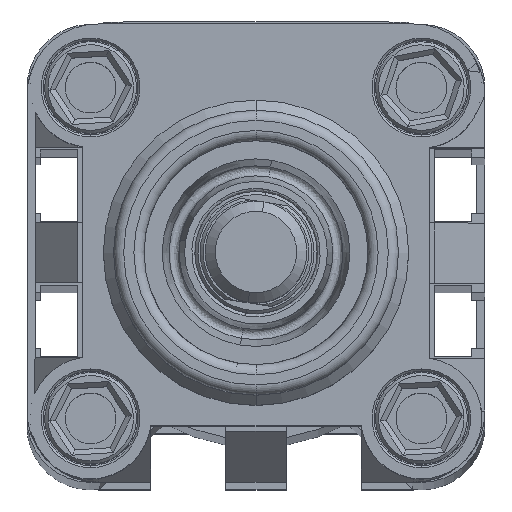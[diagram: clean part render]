
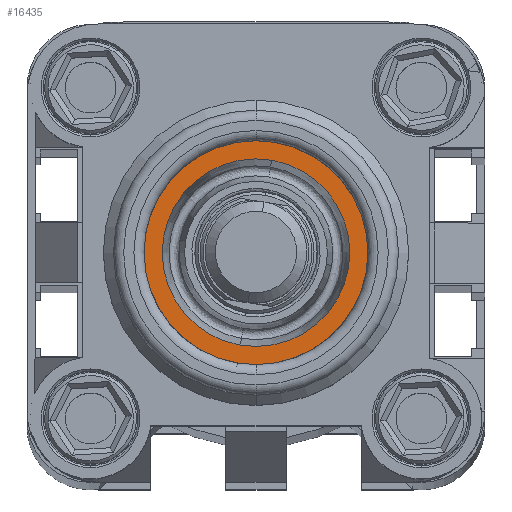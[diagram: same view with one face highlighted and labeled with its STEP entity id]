
A CAD part, top view. The second image highlights one B-rep face of the part: STEP entity #16435.
In plain terms, the highlighted planar face has unit normal (0, 0, 1) as drawn and (0, -1, 0) by its records, which use the part's own axes.
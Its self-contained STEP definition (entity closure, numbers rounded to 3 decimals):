
#705 = AXIS2_PLACEMENT_3D ( 'NONE', #16237, #9173, #10903 ) ;
#1622 = DIRECTION ( 'NONE',  ( 0., 1., 0. ) ) ;
#2420 = EDGE_LOOP ( 'NONE', ( #19342, #15966 ) ) ;
#3279 = DIRECTION ( 'NONE',  ( 0., 0., 1. ) ) ;
#3852 = ORIENTED_EDGE ( 'NONE', *, *, #9422, .F. ) ;
#3889 = CIRCLE ( 'NONE', #22813, 11. ) ;
#3952 = CARTESIAN_POINT ( 'NONE',  ( 0., -10.4, 0. ) ) ;
#4577 = EDGE_CURVE ( 'NONE', #4940, #23078, #13310, .T. ) ;
#4701 = VERTEX_POINT ( 'NONE', #20446 ) ;
#4940 = VERTEX_POINT ( 'NONE', #17203 ) ;
#4962 = DIRECTION ( 'NONE',  ( 0., 1., 0. ) ) ;
#5686 = CARTESIAN_POINT ( 'NONE',  ( -11., -10.4, 0. ) ) ;
#5709 = DIRECTION ( 'NONE',  ( 0., 0., -1. ) ) ;
#7388 = ORIENTED_EDGE ( 'NONE', *, *, #22540, .F. ) ;
#7731 = CARTESIAN_POINT ( 'NONE',  ( 0., -10.4, -11. ) ) ;
#8806 = FACE_OUTER_BOUND ( 'NONE', #20913, .T. ) ;
#8816 = CARTESIAN_POINT ( 'NONE',  ( 0., -10.4, 0. ) ) ;
#9173 = DIRECTION ( 'NONE',  ( 0., 1., 0. ) ) ;
#9422 = EDGE_CURVE ( 'NONE', #18476, #4701, #23315, .T. ) ;
#10903 = DIRECTION ( 'NONE',  ( 0., 0., -1. ) ) ;
#11333 = DIRECTION ( 'NONE',  ( 0., 1., 0. ) ) ;
#11885 = DIRECTION ( 'NONE',  ( 0., 0., 1. ) ) ;
#12753 = DIRECTION ( 'NONE',  ( 0., -1., 0. ) ) ;
#13310 = CIRCLE ( 'NONE', #705, 9.214 ) ;
#13700 = EDGE_CURVE ( 'NONE', #23078, #4940, #19390, .T. ) ;
#14539 = DIRECTION ( 'NONE',  ( 0., 0., -1. ) ) ;
#15425 = AXIS2_PLACEMENT_3D ( 'NONE', #5686, #12753, #14539 ) ;
#15836 = FACE_BOUND ( 'NONE', #2420, .T. ) ;
#15966 = ORIENTED_EDGE ( 'NONE', *, *, #13700, .T. ) ;
#16234 = PLANE ( 'NONE',  #15425 ) ;
#16237 = CARTESIAN_POINT ( 'NONE',  ( 0., -10.4, 0. ) ) ;
#16435 = ADVANCED_FACE ( 'NONE', ( #15836, #8806 ), #16234, .T. ) ;
#16578 = CARTESIAN_POINT ( 'NONE',  ( 0., -10.4, 9.214 ) ) ;
#17203 = CARTESIAN_POINT ( 'NONE',  ( 0., -10.4, -9.214 ) ) ;
#18476 = VERTEX_POINT ( 'NONE', #7731 ) ;
#19028 = CARTESIAN_POINT ( 'NONE',  ( 0., -10.4, 0. ) ) ;
#19185 = AXIS2_PLACEMENT_3D ( 'NONE', #8816, #1622, #3279 ) ;
#19342 = ORIENTED_EDGE ( 'NONE', *, *, #4577, .T. ) ;
#19390 = CIRCLE ( 'NONE', #21079, 9.214 ) ;
#20446 = CARTESIAN_POINT ( 'NONE',  ( 0., -10.4, 11. ) ) ;
#20913 = EDGE_LOOP ( 'NONE', ( #7388, #3852 ) ) ;
#21079 = AXIS2_PLACEMENT_3D ( 'NONE', #3952, #11333, #5709 ) ;
#22540 = EDGE_CURVE ( 'NONE', #4701, #18476, #3889, .T. ) ;
#22813 = AXIS2_PLACEMENT_3D ( 'NONE', #19028, #4962, #11885 ) ;
#23078 = VERTEX_POINT ( 'NONE', #16578 ) ;
#23315 = CIRCLE ( 'NONE', #19185, 11. ) ;
